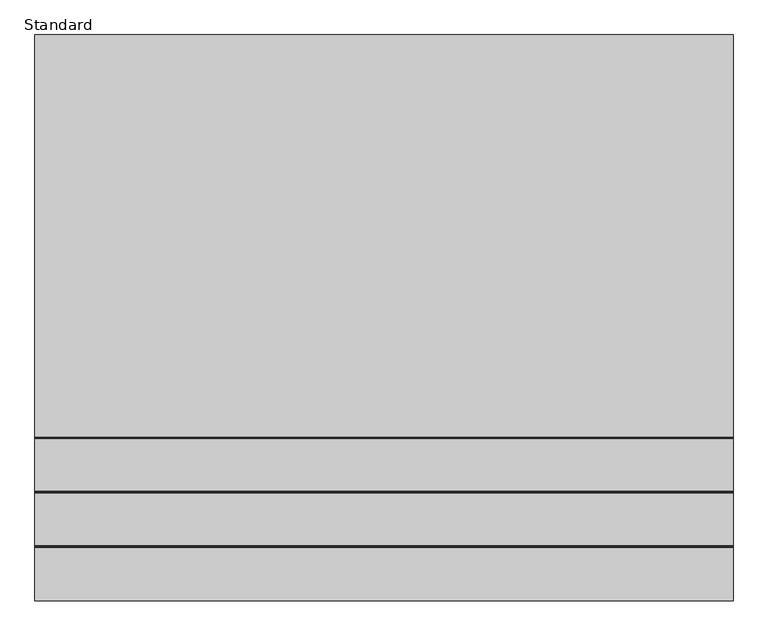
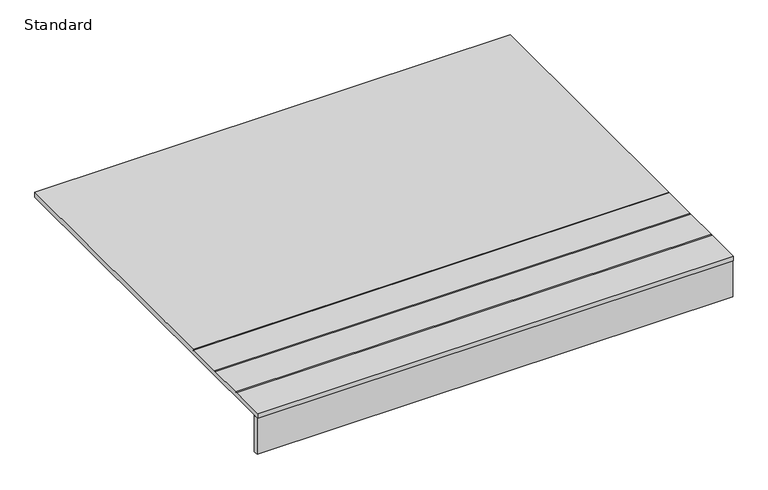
"""IFC4 building model written with IfcOpenShell, lengths in millimetres: furniture geometry, X_Bench-Wall-Duracube-Player Locker : Standard."""

from ifc_helpers import new_model, si_unit, frame, origin, place, context, project, spatial, polyline, outline, extrude, source, transform, mapped, element, save


def standard_ba7fbf49(model_context):
    return source(origin(), model_context, "Body", "SweptSolid", [
        extrude(outline(polyline([(207.5, 457.0), (-792.5, 457.0), (-792.5, 470.0), (-698.5, 470.0), (-696.5, 468.0), (-694.5, 470.0), (-602.5, 470.0), (-600.5, 468.0), (-598.5, 470.0), (-506.5, 470.0), (-504.5, 468.0), (-502.5, 470.0), (207.5, 470.0), (207.5, 457.0)])), frame((-571.5496736, 0.0, 0.0), z_axis=(1.0, 0.0, 0.0), x_axis=(0.0, 1.0, 0.0)), (0.0, 0.0, 1.0), 1232.5),
        extrude(outline(polyline([(660.9503264, -777.5), (660.9503264, -790.5), (-571.5496736, -790.5), (-571.5496736, -777.5), (660.9503264, -777.5)])), frame((0.0, 0.0, 357.0), z_axis=(0.0, 0.0, 1.0), x_axis=(1.0, 0.0, 0.0)), (0.0, 0.0, 1.0), 100.0),
    ])


if __name__ == "__main__":
    model = new_model("IFC4")
    model_context = context("Model", 3, world=origin())
    ifc_project = project(units=[si_unit("LENGTHUNIT", "METRE", prefix="MILLI")], contexts=[model_context])
    site = spatial("IfcSite", under=ifc_project)
    building = spatial("IfcBuilding", under=site)
    placement = place(None, origin())
    standard_shape = standard_ba7fbf49(model_context)
    element("IfcFurniture", 1, ObjectType="X_Bench-Wall-Duracube-Player Locker : Standard", at=placement, inside=building, context=model_context, shape_type="MappedRepresentation", body=[
        mapped(standard_shape, transform((0.0, 0.0, 0.0), x_axis=(1.0, 0.0, 0.0), y_axis=(0.0, 1.0, 0.0), z_axis=(0.0, 0.0, 1.0))),
    ])
    save(model, "model.ifc")
